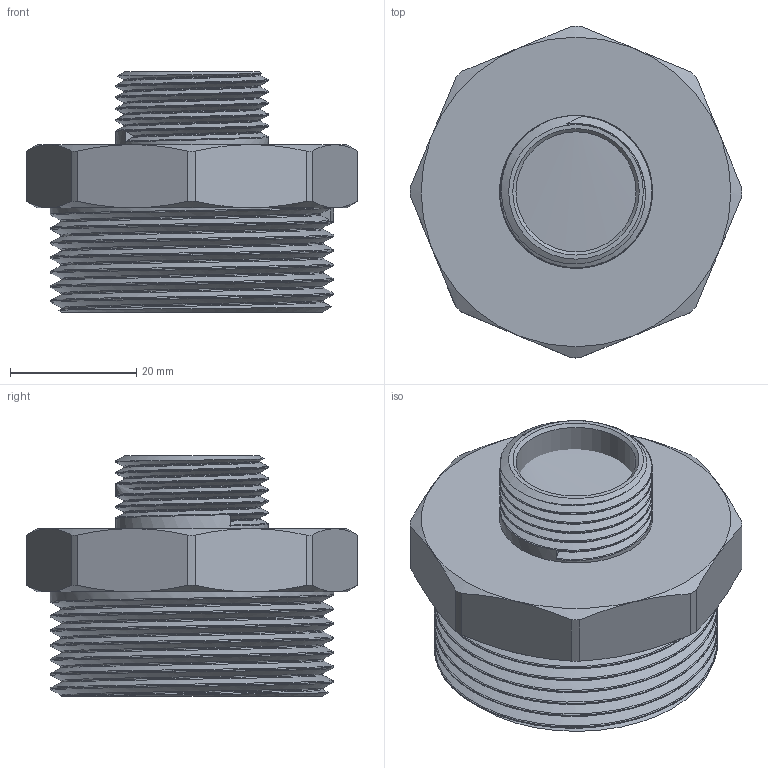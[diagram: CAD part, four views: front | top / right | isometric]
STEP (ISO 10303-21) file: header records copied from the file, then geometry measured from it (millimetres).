
FILE_DESCRIPTION(/* description */ (''),/* implementation_level */ '2;1');
FILE_NAME(/* name */ 'C:\Users\Doom\Desktop\Фадотех\Резьба\N19 17.03.2020\N19 17.03.2020.stp',/* time_stamp */ '2022-01-08T13:52:17+02:00',/* author */ ('Doom'),/* organization */ (''),/* preprocessor_version */ 'ST-DEVELOPER v18',/* originating_system */ 'Autodesk Inventor 2020',/* authorisation */ '');
FILE_SCHEMA (('AUTOMOTIVE_DESIGN { 1 0 10303 214 3 1 1 }'));
Length unit declared in the file: millimetre
Products named in the file (1): N19 17.03.2020
Bounding box: 52.5 x 52.5 x 38 mm (x, y, z)
Volume: 16105.6 mm3; surface area: 13921 mm2
Topology: 1 solids, 1 shells, 60 faces, 168 edges, 113 vertices
Faces by surface type: cylinder 26, plane 15, bspline 12, cone 7
Full cylindrical faces by diameter (mm): 19 x1, 24.17 x6, 40 x1, 44.85 x6
Entity records: 8422 total; most frequent: CARTESIAN_POINT 6964, ORIENTED_EDGE 336, DIRECTION 247, EDGE_CURVE 168, VERTEX_POINT 113, AXIS2_PLACEMENT_3D 100, EDGE_LOOP 65, FACE_OUTER_BOUND 60
